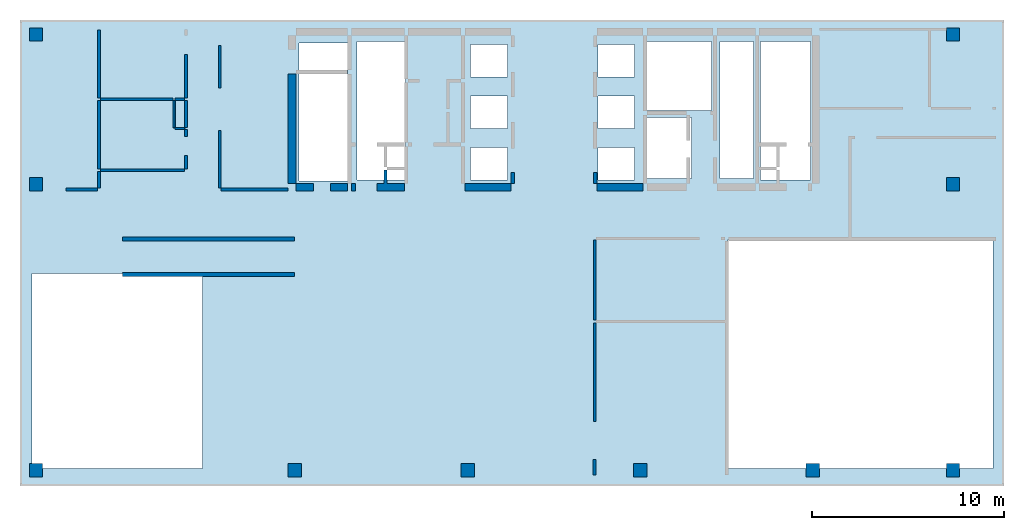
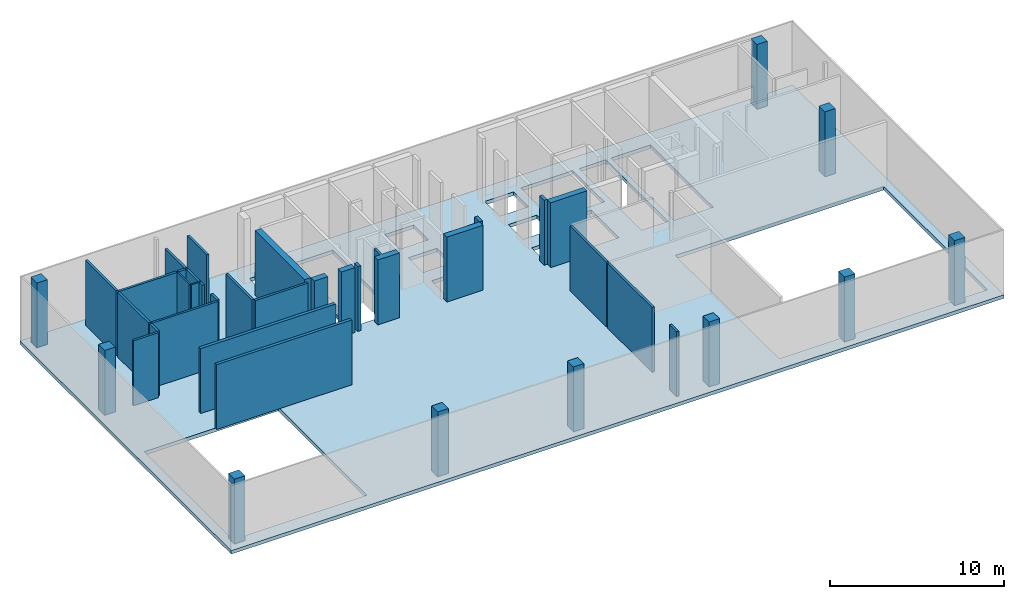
# One storey, part 1 of 4: 30 walls, 11 columns, 1 slab.
"""IFC4 building model written with IfcOpenShell, lengths in millimetres."""

from ifc_helpers import new_model, si_unit, frame, origin, place, context, project, spatial, triangles, element, save


model = new_model("IFC4")

# Units and contexts
model_context = context("Model", 3, precision=0.001, world=origin())
ifc_project = project(units=[si_unit("LENGTHUNIT", "METRE", prefix="MILLI"), si_unit("AREAUNIT", "SQUARE_METRE"), si_unit("VOLUMEUNIT", "CUBIC_METRE")], contexts=[model_context])

# Site, building, storey
site_placement = place(None, origin())
site = spatial("IfcSite", under=ifc_project, at=site_placement, Name="Site", CompositionType="ELEMENT")
building_placement = place(site_placement, origin())
building = spatial("IfcBuilding", under=site, at=building_placement, Name="INNOCEAN", CompositionType="ELEMENT")
storey_placement = place(building_placement, frame((0.0, 0.0, 20600.0)))
storey = spatial("IfcBuildingStorey", under=building, at=storey_placement, Name="F05", CompositionType="ELEMENT", Elevation=20600.0)

# Columns
column_1_placement = place(storey_placement, origin())
element("IfcColumn", 1, at=column_1_placement, inside=storey, Name="F05_Columns_F05_001", context=model_context, shape_type="Tessellation", body=[
    triangles([(40114.8, 2023.7, 0.0), (40114.8, 2722.3, 4550.0), (40114.8, 2722.3, 0.0), (40114.8, 2023.7, 4550.0), (40813.0, 2722.3, 4550.0), (40813.0, 2023.7, 0.0), (40813.0, 2722.3, 0.0), (40813.0, 2023.7, 4550.0)], [[1, 2, 3], [1, 4, 2], [5, 6, 7], [8, 6, 5], [6, 8, 1], [1, 8, 4], [5, 7, 3], [5, 3, 2], [3, 7, 1], [1, 7, 6], [5, 2, 4], [5, 4, 8]], closed=True),
])
column_2_placement = place(storey_placement, origin())
element("IfcColumn", 2, at=column_2_placement, inside=storey, Name="F05_Columns_F05_002", context=model_context, shape_type="Tessellation", body=[
    triangles([(47413.4, 24721.0, 0.0), (47413.4, 24721.0, 4550.0), (47413.4, 25419.5, 0.0), (47413.4, 25419.5, 4550.0), (48111.6, 24721.0, 4550.0), (48111.6, 24721.0, 0.0), (48111.6, 25419.5, 0.0), (48111.6, 25419.5, 4550.0)], [[1, 2, 3], [3, 2, 4], [5, 6, 7], [5, 7, 8], [6, 5, 1], [1, 5, 2], [8, 7, 3], [8, 3, 4], [1, 3, 6], [3, 7, 6], [4, 2, 5], [8, 4, 5]], closed=True),
])
column_3_placement = place(storey_placement, origin())
element("IfcColumn", 3, at=column_3_placement, inside=storey, Name="F05_Columns_F05_003", context=model_context, shape_type="Tessellation", body=[
    triangles([(47413.4, 16922.4, 0.0), (47413.4, 16922.4, 4550.0), (47413.4, 17620.9, 0.0), (47413.4, 17620.9, 4550.0), (48111.6, 16922.4, 4550.0), (48111.6, 16922.4, 0.0), (48111.6, 17620.9, 0.0), (48111.6, 17620.9, 4550.0)], [[1, 2, 3], [3, 2, 4], [5, 6, 7], [5, 7, 8], [6, 5, 1], [1, 5, 2], [8, 7, 3], [8, 3, 4], [1, 3, 6], [3, 7, 6], [4, 2, 5], [8, 4, 5]], closed=True),
])
column_4_placement = place(storey_placement, origin())
element("IfcColumn", 4, at=column_4_placement, inside=storey, Name="F05_Columns_F05_004", context=model_context, shape_type="Tessellation", body=[
    triangles([(13129.0, 2023.7, 0.0), (13129.0, 2722.3, 4550.0), (13129.0, 2722.3, 0.0), (13129.0, 2023.7, 4550.0), (13827.2, 2722.3, 4550.0), (13827.2, 2023.7, 0.0), (13827.2, 2722.3, 0.0), (13827.2, 2023.7, 4550.0)], [[1, 2, 3], [1, 4, 2], [5, 6, 7], [8, 6, 5], [6, 8, 1], [1, 8, 4], [5, 7, 3], [5, 3, 2], [3, 7, 1], [1, 7, 6], [5, 2, 4], [5, 4, 8]], closed=True),
])
column_5_placement = place(storey_placement, origin())
element("IfcColumn", 5, at=column_5_placement, inside=storey, Name="F05_Columns_F05_005", context=model_context, shape_type="Tessellation", body=[
    triangles([(47413.4, 2023.7, 0.0), (47413.4, 2722.3, 4550.0), (47413.4, 2722.3, 0.0), (47413.4, 2023.7, 4550.0), (48111.6, 2722.3, 4550.0), (48111.6, 2023.7, 0.0), (48111.6, 2722.3, 0.0), (48111.6, 2023.7, 4550.0)], [[1, 2, 3], [1, 4, 2], [5, 6, 7], [8, 6, 5], [6, 8, 1], [1, 8, 4], [5, 7, 3], [5, 3, 2], [3, 7, 1], [1, 7, 6], [5, 2, 4], [5, 4, 8]], closed=True),
])
column_6_placement = place(storey_placement, origin())
element("IfcColumn", 6, at=column_6_placement, inside=storey, Name="F05_Columns_F05_006", context=model_context, shape_type="Tessellation", body=[
    triangles([(-363.9, 2023.7, 0.0), (-363.9, 2722.3, 4550.0), (-363.9, 2722.3, 0.0), (-363.9, 2023.7, 4550.0), (334.3, 2722.3, 4550.0), (334.3, 2023.7, 0.0), (334.3, 2722.3, 0.0), (334.3, 2023.7, 4550.0)], [[1, 2, 3], [1, 4, 2], [5, 6, 7], [8, 6, 5], [6, 8, 1], [1, 8, 4], [5, 7, 3], [5, 3, 2], [3, 7, 1], [1, 7, 6], [5, 2, 4], [5, 4, 8]], closed=True),
])
column_7_placement = place(storey_placement, origin())
element("IfcColumn", 7, at=column_7_placement, inside=storey, Name="F05_Columns_F05_007", context=model_context, shape_type="Tessellation", body=[
    triangles([(-363.9, 24721.0, 0.0), (-363.9, 24721.0, 4550.0), (-363.9, 25419.5, 0.0), (-363.9, 25419.5, 4550.0), (334.3, 24721.0, 4550.0), (334.3, 24721.0, 0.0), (334.3, 25419.5, 0.0), (334.3, 25419.5, 4550.0)], [[1, 2, 3], [3, 2, 4], [5, 6, 7], [5, 7, 8], [6, 5, 1], [1, 5, 2], [8, 7, 3], [8, 3, 4], [3, 7, 1], [1, 7, 6], [8, 4, 2], [8, 2, 5]], closed=True),
])
column_8_placement = place(storey_placement, origin())
element("IfcColumn", 8, at=column_8_placement, inside=storey, Name="F05_Columns_F05_008", context=model_context, shape_type="Tessellation", body=[
    triangles([(31128.0, 2023.7, 0.0), (31128.0, 2722.3, 4550.0), (31128.0, 2722.3, 0.0), (31128.0, 2023.7, 4550.0), (31826.2, 2722.3, 4550.0), (31826.2, 2023.7, 0.0), (31826.2, 2722.3, 0.0), (31826.2, 2023.7, 4550.0)], [[1, 2, 3], [1, 4, 2], [5, 6, 7], [8, 6, 5], [6, 8, 1], [1, 8, 4], [5, 7, 3], [5, 3, 2], [3, 7, 1], [1, 7, 6], [5, 2, 4], [5, 4, 8]], closed=True),
])
column_9_placement = place(storey_placement, origin())
element("IfcColumn", 9, at=column_9_placement, inside=storey, Name="F05_Columns_F05_009", context=model_context, shape_type="Tessellation", body=[
    triangles([(22128.5, 2023.7, 0.0), (22128.5, 2722.3, 4550.0), (22128.5, 2722.3, 0.0), (22128.5, 2023.7, 4550.0), (22826.7, 2722.3, 4550.0), (22826.7, 2023.7, 0.0), (22826.7, 2722.3, 0.0), (22826.7, 2023.7, 4550.0)], [[1, 2, 3], [1, 4, 2], [5, 6, 7], [8, 6, 5], [6, 8, 1], [1, 8, 4], [5, 7, 3], [5, 3, 2], [3, 7, 1], [1, 7, 6], [5, 2, 4], [5, 4, 8]], closed=True),
])
column_10_placement = place(storey_placement, origin())
element("IfcColumn", 10, at=column_10_placement, inside=storey, Name="F05_Columns_F05_010", context=model_context, shape_type="Tessellation", body=[
    triangles([(-363.9, 16922.4, 0.0), (-363.9, 16922.4, 4550.0), (-363.9, 17620.9, 0.0), (-363.9, 17620.9, 4550.0), (334.3, 16922.4, 4550.0), (334.3, 16922.4, 0.0), (334.3, 17620.9, 0.0), (334.3, 17620.9, 4550.0)], [[1, 2, 3], [3, 2, 4], [5, 6, 7], [5, 7, 8], [6, 5, 1], [1, 5, 2], [8, 7, 3], [8, 3, 4], [3, 7, 1], [1, 7, 6], [8, 4, 2], [8, 2, 5]], closed=True),
])
column_11_placement = place(storey_placement, origin())
element("IfcColumn", 11, at=column_11_placement, inside=storey, Name="F05_Columns_F05_011", context=model_context, shape_type="Tessellation", body=[
    triangles([(-363.9, 24721.0, 0.0), (-363.9, 24721.0, 4550.0), (-363.9, 25419.5, 0.0), (-363.9, 25419.5, 4550.0), (334.3, 24721.0, 4550.0), (334.3, 24721.0, 0.0), (334.3, 25419.5, 0.0), (334.3, 25419.5, 4550.0)], [[1, 2, 3], [3, 2, 4], [5, 6, 7], [5, 7, 8], [6, 5, 1], [1, 5, 2], [8, 7, 3], [8, 3, 4], [3, 7, 1], [1, 7, 6], [8, 4, 2], [8, 2, 5]], closed=True),
])

# Slab
slab_placement = place(storey_placement, origin())
element("IfcSlab", 12, at=slab_placement, inside=storey, Name="F05_Slab_F05_001", context=model_context, shape_type="Tessellation", body=[
    triangles([(-846.215139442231, 25825.974025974, 0.0), (50420.3187250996, 25825.974025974, -250.0), (-846.215139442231, 25825.974025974, -250.0), (50420.3187250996, 25825.974025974, 0.0), (-846.215139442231, 1552.38095238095, 0.0), (-846.215139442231, 1552.38095238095, -250.0), (50420.3187250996, 1552.38095238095, 0.0), (50420.3187250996, 1552.38095238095, -250.0), (49856.1752988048, 14394.8051948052, 0.0), (36034.6613545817, 14394.8051948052, 0.0), (36034.6613545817, 14394.8051948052, -250.0), (49856.1752988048, 14394.8051948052, -250.0), (49856.1752988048, 2469.69696969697, 0.0), (49856.1752988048, 2469.69696969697, -250.0), (36034.6613545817, 2469.69696969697, 0.0), (36034.6613545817, 2469.69696969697, -250.0), (8673.70517928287, 12630.7359307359, 0.0), (-211.553784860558, 12630.7359307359, 0.0), (-211.553784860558, 12630.7359307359, -250.0), (8673.70517928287, 12630.7359307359, -250.0), (-211.553784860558, 2469.69696969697, 0.0), (-211.553784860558, 2469.69696969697, -250.0), (8673.70517928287, 2469.69696969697, 0.0), (8673.70517928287, 2469.69696969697, -250.0), (31168.9243027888, 19193.0735930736, 0.0), (29264.9402390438, 19193.0735930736, 0.0), (29264.9402390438, 19193.0735930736, -250.0), (31168.9243027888, 19193.0735930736, -250.0), (29264.9402390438, 17499.5670995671, 0.0), (29264.9402390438, 17499.5670995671, -250.0), (31168.9243027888, 17499.5670995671, 0.0), (31168.9243027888, 17499.5670995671, -250.0), (40336.2549800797, 24696.9696969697, -250.0), (37727.0916334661, 24696.9696969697, 0.0), (37727.0916334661, 24696.9696969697, -250.0), (40336.2549800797, 24696.9696969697, 0.0), (37727.0916334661, 17499.5670995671, 0.0), (37727.0916334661, 17499.5670995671, -250.0), (40336.2549800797, 17499.5670995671, 0.0), (40336.2549800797, 17499.5670995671, -250.0), (34130.6772908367, 20745.4545454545, -250.0), (31733.0677290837, 20745.4545454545, 0.0), (31733.0677290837, 20745.4545454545, -250.0), (34130.6772908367, 20745.4545454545, 0.0), (31733.0677290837, 17570.1298701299, 0.0), (31733.0677290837, 17570.1298701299, -250.0), (34130.6772908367, 17570.1298701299, 0.0), (34130.6772908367, 17570.1298701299, -250.0), (37374.5019920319, 24696.9696969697, 0.0), (35611.5537848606, 24696.9696969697, 0.0), (35611.5537848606, 24696.9696969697, -250.0), (37374.5019920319, 24696.9696969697, -250.0), (35611.5537848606, 17570.1298701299, 0.0), (35611.5537848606, 17570.1298701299, -250.0), (37374.5019920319, 17570.1298701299, 0.0), (37374.5019920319, 17570.1298701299, -250.0), (31168.9243027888, 21874.4588744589, 0.0), (29264.9402390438, 21874.4588744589, 0.0), (29264.9402390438, 21874.4588744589, -250.0), (31168.9243027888, 21874.4588744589, -250.0), (29264.9402390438, 20180.9523809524, 0.0), (29264.9402390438, 20180.9523809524, -250.0), (31168.9243027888, 20180.9523809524, 0.0), (31168.9243027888, 20180.9523809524, -250.0), (35188.4462151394, 24696.9696969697, 0.0), (31733.0677290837, 24696.9696969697, 0.0), (31733.0677290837, 24696.9696969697, -250.0), (35188.4462151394, 24696.9696969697, -250.0), (31733.0677290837, 21098.2683982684, 0.0), (31733.0677290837, 21098.2683982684, -250.0), (35188.4462151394, 21098.2683982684, 0.0), (35188.4462151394, 21098.2683982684, -250.0), (31168.9243027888, 24555.8441558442, 0.0), (29264.9402390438, 24555.8441558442, 0.0), (29264.9402390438, 24555.8441558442, -250.0), (31168.9243027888, 24555.8441558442, -250.0), (29264.9402390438, 22862.3376623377, 0.0), (29264.9402390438, 22862.3376623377, -250.0), (31168.9243027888, 22862.3376623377, 0.0), (31168.9243027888, 22862.3376623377, -250.0), (24540.2390438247, 19193.0735930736, -250.0), (22636.2549800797, 19193.0735930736, 0.0), (22636.2549800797, 19193.0735930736, -250.0), (24540.2390438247, 19193.0735930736, 0.0), (22636.2549800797, 17499.5670995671, 0.0), (22636.2549800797, 17499.5670995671, -250.0), (24540.2390438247, 17499.5670995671, 0.0), (24540.2390438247, 17499.5670995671, -250.0), (24540.2390438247, 21874.4588744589, -250.0), (22636.2549800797, 21874.4588744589, 0.0), (22636.2549800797, 21874.4588744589, -250.0), (24540.2390438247, 21874.4588744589, 0.0), (22636.2549800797, 20180.9523809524, 0.0), (22636.2549800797, 20180.9523809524, -250.0), (24540.2390438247, 20180.9523809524, 0.0), (24540.2390438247, 20180.9523809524, -250.0), (19251.3944223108, 24696.9696969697, 0.0), (16712.7490039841, 24696.9696969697, 0.0), (16712.7490039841, 24696.9696969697, -250.0), (19251.3944223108, 24696.9696969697, -250.0), (16712.7490039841, 17499.5670995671, 0.0), (16712.7490039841, 17499.5670995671, -250.0), (19251.3944223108, 17499.5670995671, 0.0), (19251.3944223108, 17499.5670995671, -250.0), (16219.1235059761, 24626.4069264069, 0.0), (13680.4780876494, 24626.4069264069, 0.0), (13680.4780876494, 24626.4069264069, -250.0), (16219.1235059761, 24626.4069264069, -250.0), (13680.4780876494, 17429.0043290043, 0.0), (13680.4780876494, 17429.0043290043, -250.0), (16219.1235059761, 17429.0043290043, 0.0), (16219.1235059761, 17429.0043290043, -250.0), (24540.2390438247, 24555.8441558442, -250.0), (22636.2549800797, 24555.8441558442, 0.0), (22636.2549800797, 24555.8441558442, -250.0), (24540.2390438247, 24555.8441558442, 0.0), (22636.2549800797, 22862.3376623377, 0.0), (22636.2549800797, 22862.3376623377, -250.0), (24540.2390438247, 22862.3376623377, 0.0), (24540.2390438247, 22862.3376623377, -250.0)], [[1, 2, 3], [1, 4, 2], [5, 1, 6], [6, 1, 3], [4, 7, 2], [2, 7, 8], [7, 6, 8], [7, 5, 6], [9, 10, 11], [9, 11, 12], [13, 9, 12], [13, 12, 14], [15, 13, 14], [15, 14, 16], [10, 15, 16], [10, 16, 11], [17, 18, 19], [17, 19, 20], [18, 21, 22], [18, 22, 19], [23, 17, 20], [23, 20, 24], [21, 23, 24], [21, 24, 22], [25, 26, 27], [25, 27, 28], [26, 29, 30], [26, 30, 27], [31, 25, 28], [31, 28, 32], [29, 31, 32], [29, 32, 30], [33, 34, 35], [36, 34, 33], [34, 37, 38], [34, 38, 35], [39, 36, 33], [39, 33, 40], [38, 39, 40], [37, 39, 38], [41, 42, 43], [44, 42, 41], [42, 45, 46], [42, 46, 43], [47, 44, 41], [47, 41, 48], [46, 47, 48], [45, 47, 46], [49, 50, 51], [49, 51, 52], [50, 53, 54], [50, 54, 51], [55, 49, 52], [55, 52, 56], [53, 55, 56], [53, 56, 54], [57, 58, 59], [57, 59, 60], [58, 61, 62], [58, 62, 59], [63, 57, 60], [63, 60, 64], [61, 63, 64], [61, 64, 62], [65, 66, 67], [65, 67, 68], [66, 69, 70], [66, 70, 67], [71, 65, 68], [71, 68, 72], [69, 71, 72], [69, 72, 70], [73, 74, 75], [73, 75, 76], [74, 77, 78], [74, 78, 75], [79, 73, 76], [79, 76, 80], [77, 79, 80], [77, 80, 78], [81, 82, 83], [84, 82, 81], [82, 85, 86], [82, 86, 83], [87, 84, 81], [87, 81, 88], [86, 87, 88], [85, 87, 86], [89, 90, 91], [92, 90, 89], [90, 93, 94], [90, 94, 91], [95, 92, 89], [95, 89, 96], [94, 95, 96], [93, 95, 94], [97, 98, 99], [97, 99, 100], [98, 101, 102], [98, 102, 99], [103, 97, 100], [103, 100, 104], [101, 103, 104], [101, 104, 102], [105, 106, 107], [105, 107, 108], [106, 109, 110], [106, 110, 107], [111, 105, 108], [111, 108, 112], [109, 111, 112], [109, 112, 110], [113, 114, 115], [116, 114, 113], [114, 117, 118], [114, 118, 115], [119, 116, 113], [119, 113, 120], [118, 119, 120], [117, 119, 118], [7, 9, 13], [13, 15, 7], [4, 39, 9], [39, 10, 9], [39, 37, 10], [37, 55, 10], [55, 53, 10], [53, 47, 10], [4, 36, 39], [47, 45, 10], [45, 31, 10], [71, 44, 53], [53, 44, 47], [45, 25, 31], [10, 29, 15], [31, 29, 10], [25, 42, 63], [42, 69, 63], [44, 69, 42], [50, 65, 71], [63, 26, 25], [69, 57, 63], [63, 61, 26], [69, 79, 57], [29, 87, 15], [66, 73, 79], [79, 77, 57], [57, 77, 58], [61, 84, 26], [26, 84, 29], [29, 84, 87], [87, 85, 15], [15, 85, 23], [66, 74, 73], [61, 95, 84], [58, 95, 61], [58, 92, 95], [84, 93, 82], [95, 93, 84], [85, 103, 23], [82, 103, 85], [93, 103, 82], [77, 119, 58], [58, 119, 92], [93, 90, 103], [119, 90, 92], [74, 116, 77], [77, 116, 119], [119, 117, 90], [103, 101, 23], [101, 111, 23], [23, 5, 15], [23, 21, 5], [111, 17, 23], [109, 17, 111], [114, 97, 117], [90, 97, 103], [117, 97, 90], [98, 105, 101], [101, 105, 111], [98, 106, 105], [21, 18, 5], [17, 1, 18], [106, 1, 109], [109, 1, 17], [4, 1, 36], [36, 1, 34], [34, 1, 49], [49, 1, 50], [50, 1, 65], [65, 1, 66], [66, 1, 74], [74, 1, 116], [116, 1, 114], [114, 1, 97], [97, 1, 98], [98, 1, 106], [7, 4, 9], [5, 7, 15], [1, 5, 18], [45, 42, 25], [53, 50, 71], [49, 55, 34], [34, 55, 37], [69, 66, 79], [71, 69, 44], [12, 8, 14], [16, 14, 8], [40, 2, 12], [11, 40, 12], [38, 40, 11], [56, 38, 11], [54, 56, 11], [48, 54, 11], [33, 2, 40], [46, 48, 11], [32, 46, 11], [41, 72, 54], [41, 54, 48], [28, 46, 32], [30, 11, 16], [30, 32, 11], [43, 28, 64], [70, 43, 64], [70, 41, 43], [68, 51, 72], [27, 64, 28], [60, 70, 64], [62, 64, 27], [80, 70, 60], [88, 30, 16], [76, 67, 80], [78, 80, 60], [78, 60, 59], [81, 62, 27], [81, 27, 30], [81, 30, 88], [86, 88, 16], [86, 16, 24], [75, 67, 76], [96, 62, 81], [96, 59, 62], [89, 59, 96], [94, 81, 83], [94, 96, 81], [104, 86, 24], [104, 83, 86], [104, 94, 83], [120, 78, 59], [120, 59, 89], [91, 94, 104], [91, 120, 89], [113, 75, 78], [113, 78, 120], [118, 120, 91], [102, 104, 24], [112, 102, 24], [6, 24, 16], [22, 24, 6], [20, 112, 24], [20, 110, 112], [100, 115, 118], [100, 91, 104], [100, 118, 91], [108, 99, 102], [108, 102, 112], [107, 99, 108], [19, 22, 6], [3, 20, 19], [3, 107, 110], [3, 110, 20], [3, 2, 33], [3, 33, 35], [3, 35, 52], [3, 52, 51], [3, 51, 68], [3, 68, 67], [3, 67, 75], [3, 75, 113], [3, 113, 115], [3, 115, 100], [3, 100, 99], [3, 99, 107], [2, 8, 12], [8, 6, 16], [6, 3, 19], [43, 46, 28], [51, 54, 72], [56, 52, 35], [56, 35, 38], [67, 70, 80], [70, 72, 41]], closed=True),
])

# Walls
wall_1_placement = place(storey_placement, origin())
element("IfcWall", 13, at=wall_1_placement, inside=storey, Name="F05_Walls_F05_001", context=model_context, shape_type="Tessellation", body=[
    triangles([(4500.0, 12475.0, 0.0), (13460.0, 12475.0, 0.0), (13460.0, 12475.0, 4550.0), (4500.0, 12475.0, 4550.0), (4500.0, 12476.9, 4550.0), (4500.0, 12476.9, 0.0), (4497.6, 12476.9, 0.0), (4497.6, 12476.9, 4550.0), (4497.6, 12667.4, 0.0), (4497.6, 12667.4, 4550.0), (13459.1, 12667.4, 0.0), (13459.1, 12667.4, 4550.0), (13459.1, 12665.0, 0.0), (13459.1, 12665.0, 4550.0), (13460.0, 12665.0, 4550.0), (13460.0, 12665.0, 0.0)], [[1, 2, 3], [1, 3, 4], [1, 4, 5], [6, 1, 5], [7, 6, 5], [7, 5, 8], [9, 7, 8], [9, 8, 10], [11, 9, 10], [11, 10, 12], [13, 11, 12], [13, 12, 14], [13, 14, 15], [16, 13, 15], [2, 16, 15], [2, 15, 3], [13, 16, 2], [6, 2, 1], [6, 13, 2], [9, 6, 7], [9, 11, 13], [9, 13, 6], [15, 14, 3], [3, 5, 4], [14, 5, 3], [5, 10, 8], [12, 10, 14], [14, 10, 5]], closed=True),
])
wall_2_placement = place(storey_placement, origin())
element("IfcWall", 14, at=wall_2_placement, inside=storey, Name="F05_Walls_F05_002", context=model_context, shape_type="Tessellation", body=[
    triangles([(13459.1, 14520.0, 0.0), (13459.1, 14521.8, 0.0), (13459.1, 14521.8, 4550.0), (13459.1, 14520.0, 4550.0), (13460.0, 14520.0, 4550.0), (13460.0, 14520.0, 0.0), (13460.0, 14320.0, 4550.0), (13460.0, 14320.0, 0.0), (13459.1, 14320.0, 4550.0), (13459.1, 14320.0, 0.0), (13459.1, 14318.6, 0.0), (13459.1, 14318.6, 4550.0), (4497.6, 14318.6, 0.0), (4497.6, 14318.6, 4550.0), (4497.6, 14521.8, 0.0), (4497.6, 14521.8, 4550.0)], [[1, 2, 3], [1, 3, 4], [1, 4, 5], [6, 1, 5], [6, 5, 7], [8, 6, 7], [8, 7, 9], [10, 8, 9], [11, 10, 9], [11, 9, 12], [13, 11, 12], [13, 12, 14], [15, 13, 14], [15, 14, 16], [2, 15, 16], [2, 16, 3], [1, 6, 8], [1, 8, 10], [13, 10, 11], [13, 1, 10], [15, 2, 1], [15, 1, 13], [5, 4, 7], [7, 4, 9], [9, 14, 12], [4, 14, 9], [3, 16, 4], [4, 16, 14]], closed=True),
])
wall_3_placement = place(storey_placement, origin())
element("IfcWall", 15, at=wall_3_placement, inside=storey, Name="F05_Walls_F05_003", context=model_context, shape_type="Tessellation", body=[
    triangles([(3190.2, 16922.4, 0.0), (3190.2, 17074.8, 0.0), (3190.2, 17074.8, 4550.0), (3190.2, 16922.4, 4550.0), (1552.8, 16922.4, 0.0), (1552.8, 16922.4, 4550.0), (1552.8, 17074.8, 0.0), (1552.8, 17074.8, 4550.0)], [[1, 2, 3], [1, 3, 4], [5, 1, 4], [5, 4, 6], [7, 5, 6], [7, 6, 8], [2, 7, 8], [2, 8, 3], [5, 2, 1], [7, 2, 5], [3, 6, 4], [3, 8, 6]], closed=True),
])
wall_4_placement = place(storey_placement, origin())
element("IfcWall", 16, at=wall_4_placement, inside=storey, Name="F05_Walls_F05_004", context=model_context, shape_type="Tessellation", body=[
    triangles([(13129.0, 16922.4, 0.0), (13129.0, 17074.8, 0.0), (13129.0, 17074.8, 4550.0), (13129.0, 16922.4, 4550.0), (9638.4, 16922.4, 0.0), (9638.4, 16922.4, 4550.0), (9638.4, 17074.8, 0.0), (9638.4, 17074.8, 4550.0)], [[1, 2, 3], [1, 3, 4], [5, 1, 4], [5, 4, 6], [7, 5, 6], [7, 6, 8], [2, 7, 8], [2, 8, 3], [7, 2, 1], [7, 1, 5], [3, 8, 4], [4, 8, 6]], closed=True),
])
wall_5_placement = place(storey_placement, origin())
element("IfcWall", 17, at=wall_5_placement, inside=storey, Name="F05_Walls_F05_005", context=model_context, shape_type="Tessellation", body=[
    triangles([(14436.4, 16922.4, 0.0), (14436.4, 17316.1, 0.0), (14436.4, 17316.1, 4550.0), (14436.4, 16922.4, 4550.0), (13535.2, 16922.4, 4550.0), (13535.2, 16922.4, 0.0), (13535.2, 17316.1, 0.0), (13535.2, 17316.1, 4550.0)], [[1, 2, 3], [1, 3, 4], [1, 4, 5], [6, 1, 5], [7, 6, 5], [7, 5, 8], [7, 8, 3], [2, 7, 3], [7, 2, 1], [7, 1, 6], [3, 8, 4], [4, 8, 5]], closed=True),
])
wall_6_placement = place(storey_placement, origin())
element("IfcWall", 18, at=wall_6_placement, inside=storey, Name="F05_Walls_F05_006", context=model_context, shape_type="Tessellation", body=[
    triangles([(16226.2, 16922.4, 0.0), (16226.2, 17316.1, 0.0), (16226.2, 17316.1, 4550.0), (16226.2, 16922.4, 4550.0), (15337.6, 16922.4, 0.0), (15337.6, 16922.4, 4550.0), (15337.6, 17316.1, 0.0), (15337.6, 17316.1, 4550.0)], [[1, 2, 3], [1, 3, 4], [5, 1, 4], [5, 4, 6], [7, 5, 6], [7, 6, 8], [2, 7, 8], [2, 8, 3], [7, 2, 1], [7, 1, 5], [3, 8, 4], [4, 8, 6]], closed=True),
])
wall_7_placement = place(storey_placement, origin())
element("IfcWall", 19, at=wall_7_placement, inside=storey, Name="F05_Walls_F05_007", context=model_context, shape_type="Tessellation", body=[
    triangles([(16632.4, 16922.4, 0.0), (16632.4, 17316.1, 0.0), (16632.4, 17316.1, 4550.0), (16632.4, 16922.4, 4550.0), (16429.3, 16922.4, 0.0), (16429.3, 16922.4, 4550.0), (16429.3, 17316.1, 0.0), (16429.3, 17316.1, 4550.0)], [[1, 2, 3], [1, 3, 4], [5, 1, 4], [5, 4, 6], [7, 5, 6], [7, 6, 8], [2, 7, 8], [2, 8, 3], [7, 2, 1], [7, 1, 5], [3, 8, 4], [4, 8, 6]], closed=True),
])
wall_8_placement = place(storey_placement, origin())
element("IfcWall", 20, at=wall_8_placement, inside=storey, Name="F05_Walls_F05_008", context=model_context, shape_type="Tessellation", body=[
    triangles([(3342.5, 17074.8, 0.0), (3342.5, 17925.8, 0.0), (3342.5, 17925.8, 4550.0), (3342.5, 17074.8, 4550.0), (3190.2, 17074.8, 0.0), (3190.2, 17074.8, 4550.0), (3190.2, 17925.8, 0.0), (3190.2, 17925.8, 4550.0)], [[1, 2, 3], [1, 3, 4], [5, 1, 4], [5, 4, 6], [7, 5, 6], [7, 6, 8], [2, 7, 8], [2, 8, 3], [7, 2, 1], [7, 1, 5], [3, 8, 4], [4, 8, 6]], closed=True),
])
wall_9_placement = place(storey_placement, origin())
element("IfcWall", 21, at=wall_9_placement, inside=storey, Name="F05_Walls_F05_009", context=model_context, shape_type="Tessellation", body=[
    triangles([(7734.4, 17925.8, 0.0), (7734.4, 18065.5, 0.0), (7734.4, 18065.5, 4550.0), (7734.4, 17925.8, 4550.0), (3342.5, 17925.8, 4550.0), (3342.5, 17925.8, 0.0), (3342.5, 18065.5, 0.0), (3342.5, 18065.5, 4550.0)], [[1, 2, 3], [1, 3, 4], [1, 4, 5], [6, 1, 5], [7, 6, 5], [7, 5, 8], [7, 8, 3], [2, 7, 3], [6, 2, 1], [7, 2, 6], [3, 5, 4], [3, 8, 5]], closed=True),
])
wall_10_placement = place(storey_placement, origin())
element("IfcWall", 22, at=wall_10_placement, inside=storey, Name="F05_Walls_F05_011", context=model_context, shape_type="Tessellation", body=[
    triangles([(7886.7, 18065.5, 0.0), (7886.7, 18776.8, 0.0), (7886.7, 18776.8, 4550.0), (7886.7, 18065.5, 4550.0), (7734.4, 18065.5, 0.0), (7734.4, 18065.5, 4550.0), (7734.4, 18776.8, 0.0), (7734.4, 18776.8, 4550.0)], [[1, 2, 3], [1, 3, 4], [5, 1, 4], [5, 4, 6], [7, 5, 6], [7, 6, 8], [2, 7, 8], [2, 8, 3], [2, 1, 5], [7, 2, 5], [4, 3, 6], [3, 8, 6]], closed=True),
])
wall_11_placement = place(storey_placement, origin())
element("IfcWall", 23, at=wall_11_placement, inside=storey, Name="F05_Walls_F05_012", context=model_context, shape_type="Tessellation", body=[
    triangles([(9638.4, 17074.8, 0.0), (9638.4, 20059.6, 0.0), (9638.4, 20059.6, 4550.0), (9638.4, 17074.8, 4550.0), (9486.1, 17074.8, 0.0), (9486.1, 17074.8, 4550.0), (9486.1, 20059.6, 0.0), (9486.1, 20059.6, 4550.0)], [[1, 2, 3], [1, 3, 4], [5, 1, 4], [5, 4, 6], [7, 5, 6], [7, 6, 8], [2, 7, 8], [2, 8, 3], [7, 2, 1], [7, 1, 5], [3, 8, 4], [4, 8, 6]], closed=True),
])
wall_12_placement = place(storey_placement, origin())
element("IfcWall", 24, at=wall_12_placement, inside=storey, Name="F05_Walls_F05_013", context=model_context, shape_type="Tessellation", body=[
    triangles([(3342.5, 18065.5, 0.0), (3342.5, 21621.8, 0.0), (3342.5, 21621.8, 4550.0), (3342.5, 18065.5, 4550.0), (3190.2, 18065.5, 0.0), (3190.2, 18065.5, 4550.0), (3190.2, 21621.8, 0.0), (3190.2, 21621.8, 4550.0)], [[1, 2, 3], [1, 3, 4], [5, 1, 4], [5, 4, 6], [7, 5, 6], [7, 6, 8], [2, 7, 8], [2, 8, 3], [7, 2, 1], [7, 1, 5], [3, 8, 4], [4, 8, 6]], closed=True),
])
wall_13_placement = place(storey_placement, origin())
element("IfcWall", 25, at=wall_13_placement, inside=storey, Name="F05_Walls_F05_014", context=model_context, shape_type="Tessellation", body=[
    triangles([(7886.7, 20123.1, 0.0), (7886.7, 20123.1, 4550.0), (7886.7, 19767.5, 4550.0), (7886.7, 19767.5, 0.0), (7734.4, 19767.5, 0.0), (7734.4, 19767.5, 4550.0), (7734.4, 20123.1, 4550.0), (7734.4, 20123.1, 0.0)], [[1, 2, 3], [4, 1, 3], [5, 4, 3], [5, 3, 6], [5, 6, 7], [8, 5, 7], [1, 8, 7], [1, 7, 2], [1, 4, 5], [8, 1, 5], [3, 2, 6], [2, 7, 6]], closed=True),
])
wall_14_placement = place(storey_placement, origin())
element("IfcWall", 26, at=wall_14_placement, inside=storey, Name="F05_Walls_F05_015", context=model_context, shape_type="Tessellation", body=[
    triangles([(13535.2, 17316.1, 0.0), (13535.2, 23019.0, 0.0), (13535.2, 23019.0, 4550.0), (13535.2, 17316.1, 4550.0), (13129.0, 17316.1, 0.0), (13129.0, 17316.1, 4550.0), (13129.0, 23019.0, 0.0), (13129.0, 23019.0, 4550.0)], [[1, 2, 3], [1, 3, 4], [5, 1, 4], [5, 4, 6], [7, 5, 6], [7, 6, 8], [2, 7, 8], [2, 8, 3], [7, 2, 1], [7, 1, 5], [3, 8, 4], [4, 8, 6]], closed=True),
])
wall_15_placement = place(storey_placement, origin())
element("IfcWall", 27, at=wall_15_placement, inside=storey, Name="F05_Walls_F05_016", context=model_context, shape_type="Tessellation", body=[
    triangles([(7239.4, 20123.1, 0.0), (7239.4, 20123.1, 4550.0), (7239.4, 20224.7, 4550.0), (7239.4, 20224.7, 0.0), (7734.4, 20224.7, 4550.0), (7734.4, 20224.7, 0.0), (7734.4, 20123.1, 4550.0), (7734.4, 20123.1, 0.0)], [[1, 2, 3], [4, 1, 3], [4, 3, 5], [6, 4, 5], [6, 5, 7], [8, 6, 7], [8, 7, 2], [1, 8, 2], [4, 6, 8], [4, 8, 1], [5, 3, 7], [7, 3, 2]], closed=True),
])
wall_16_placement = place(storey_placement, origin())
element("IfcWall", 28, at=wall_16_placement, inside=storey, Name="F05_Walls_F05_017", context=model_context, shape_type="Tessellation", body=[
    triangles([(7239.4, 20224.7, 0.0), (7239.4, 21621.8, 0.0), (7239.4, 21621.8, 4550.0), (7239.4, 20224.7, 4550.0), (7137.8, 20224.7, 0.0), (7137.8, 20224.7, 4550.0), (7137.8, 21621.8, 0.0), (7137.8, 21621.8, 4550.0)], [[1, 2, 3], [1, 3, 4], [5, 1, 4], [5, 4, 6], [7, 5, 6], [7, 6, 8], [2, 7, 8], [2, 8, 3], [7, 2, 1], [7, 1, 5], [3, 8, 4], [4, 8, 6]], closed=True),
])
wall_17_placement = place(storey_placement, origin())
element("IfcWall", 29, at=wall_17_placement, inside=storey, Name="F05_Walls_F05_018", context=model_context, shape_type="Tessellation", body=[
    triangles([(7886.7, 20224.7, 0.0), (7886.7, 21621.8, 0.0), (7886.7, 21621.8, 4550.0), (7886.7, 20224.7, 4550.0), (7734.4, 20224.7, 0.0), (7734.4, 20224.7, 4550.0), (7734.4, 21621.8, 0.0), (7734.4, 21621.8, 4550.0)], [[1, 2, 3], [1, 3, 4], [5, 1, 4], [5, 4, 6], [7, 5, 6], [7, 6, 8], [2, 7, 8], [2, 8, 3], [7, 2, 1], [7, 1, 5], [3, 8, 4], [4, 8, 6]], closed=True),
])
wall_18_placement = place(storey_placement, origin())
element("IfcWall", 30, at=wall_18_placement, inside=storey, Name="F05_Walls_F05_019", context=model_context, shape_type="Tessellation", body=[
    triangles([(7137.8, 21621.8, 0.0), (7137.8, 21774.3, 0.0), (7137.8, 21774.3, 4550.0), (7137.8, 21621.8, 4550.0), (3342.5, 21621.8, 0.0), (3342.5, 21621.8, 4550.0), (3342.5, 21774.3, 0.0), (3342.5, 21774.3, 4550.0)], [[1, 2, 3], [1, 3, 4], [5, 1, 4], [5, 4, 6], [7, 5, 6], [7, 6, 8], [2, 7, 8], [2, 8, 3], [7, 2, 1], [7, 1, 5], [3, 8, 4], [4, 8, 6]], closed=True),
])
wall_19_placement = place(storey_placement, origin())
element("IfcWall", 31, at=wall_19_placement, inside=storey, Name="F05_Walls_F05_020", context=model_context, shape_type="Tessellation", body=[
    triangles([(7734.4, 21621.8, 0.0), (7734.4, 21774.3, 0.0), (7734.4, 21774.3, 4550.0), (7734.4, 21621.8, 4550.0), (7239.4, 21621.8, 4550.0), (7239.4, 21621.8, 0.0), (7239.4, 21774.3, 0.0), (7239.4, 21774.3, 4550.0)], [[1, 2, 3], [1, 3, 4], [1, 4, 5], [6, 1, 5], [7, 6, 5], [7, 5, 8], [7, 8, 3], [2, 7, 3], [7, 2, 1], [7, 1, 6], [3, 8, 4], [4, 8, 5]], closed=True),
])
wall_20_placement = place(storey_placement, origin())
element("IfcWall", 32, at=wall_20_placement, inside=storey, Name="F05_Walls_F05_021", context=model_context, shape_type="Tessellation", body=[
    triangles([(7886.7, 21774.3, 0.0), (7886.7, 24022.4, 0.0), (7886.7, 24022.4, 4550.0), (7886.7, 21774.3, 4550.0), (7734.4, 21774.3, 0.0), (7734.4, 21774.3, 4550.0), (7734.4, 24022.4, 0.0), (7734.4, 24022.4, 4550.0)], [[1, 2, 3], [1, 3, 4], [5, 1, 4], [5, 4, 6], [7, 5, 6], [7, 6, 8], [2, 7, 8], [2, 8, 3], [2, 1, 5], [7, 2, 5], [4, 3, 6], [3, 8, 6]], closed=True),
])
wall_21_placement = place(storey_placement, origin())
element("IfcWall", 33, at=wall_21_placement, inside=storey, Name="F05_Walls_F05_023", context=model_context, shape_type="Tessellation", body=[
    triangles([(9638.4, 22282.3, 0.0), (9638.4, 24505.0, 0.0), (9638.4, 24505.0, 4550.0), (9638.4, 22282.3, 4550.0), (9486.1, 22282.3, 0.0), (9486.1, 22282.3, 4550.0), (9486.1, 24505.0, 0.0), (9486.1, 24505.0, 4550.0)], [[1, 2, 3], [1, 3, 4], [5, 1, 4], [5, 4, 6], [7, 5, 6], [7, 6, 8], [2, 7, 8], [2, 8, 3], [7, 2, 1], [7, 1, 5], [3, 8, 4], [4, 8, 6]], closed=True),
])
wall_22_placement = place(storey_placement, origin())
element("IfcWall", 34, at=wall_22_placement, inside=storey, Name="F05_Walls_F05_024", context=model_context, shape_type="Tessellation", body=[
    triangles([(3342.5, 21774.3, 0.0), (3342.5, 25317.9, 0.0), (3342.5, 25317.9, 4550.0), (3342.5, 21774.3, 4550.0), (3190.2, 21774.3, 0.0), (3190.2, 21774.3, 4550.0), (3190.2, 25317.9, 0.0), (3190.2, 25317.9, 4550.0)], [[1, 2, 3], [1, 3, 4], [5, 1, 4], [5, 4, 6], [7, 5, 6], [7, 6, 8], [2, 7, 8], [2, 8, 3], [7, 2, 1], [7, 1, 5], [3, 8, 4], [4, 8, 6]], closed=True),
])
wall_23_placement = place(storey_placement, origin())
element("IfcWall", 35, at=wall_23_placement, inside=storey, Name="F05_Walls_F05_029", context=model_context, shape_type="Tessellation", body=[
    triangles([(29173.3, 4919.6, 0.0), (29173.3, 10051.0, 0.0), (29173.3, 10051.0, 4550.0), (29173.3, 4919.6, 4550.0), (29020.9, 4919.6, 0.0), (29020.9, 4919.6, 4550.0), (29020.9, 10051.0, 0.0), (29020.9, 10051.0, 4550.0)], [[1, 2, 3], [1, 3, 4], [5, 1, 4], [5, 4, 6], [7, 5, 6], [7, 6, 8], [2, 7, 8], [2, 8, 3], [7, 2, 1], [7, 1, 5], [3, 8, 4], [4, 8, 6]], closed=True),
])
wall_24_placement = place(storey_placement, origin())
element("IfcWall", 36, at=wall_24_placement, inside=storey, Name="F05_Walls_F05_030", context=model_context, shape_type="Tessellation", body=[
    triangles([(29173.3, 10190.7, 0.0), (29173.3, 14369.4, 0.0), (29173.3, 14369.4, 4550.0), (29173.3, 10190.7, 4550.0), (29020.9, 10190.7, 0.0), (29020.9, 10190.7, 4550.0), (29020.9, 14369.4, 0.0), (29020.9, 14369.4, 4550.0)], [[1, 2, 3], [1, 3, 4], [5, 1, 4], [5, 4, 6], [7, 5, 6], [7, 6, 8], [2, 7, 8], [2, 8, 3], [7, 2, 1], [7, 1, 5], [3, 8, 4], [4, 8, 6]], closed=True),
])
wall_25_placement = place(storey_placement, origin())
element("IfcWall", 37, at=wall_25_placement, inside=storey, Name="F05_Walls_F05_031", context=model_context, shape_type="Tessellation", body=[
    triangles([(18130.2, 18014.7, 0.0), (18130.2, 17316.1, 0.0), (18130.2, 17316.1, 4550.0), (18130.2, 18014.7, 4550.0), (18282.5, 18014.7, 0.0), (18282.5, 18014.7, 4550.0), (18282.5, 17316.1, 0.0), (18282.5, 17316.1, 4550.0), (19183.7, 17316.1, 0.0), (19183.7, 17316.1, 4550.0), (19183.7, 16922.4, 0.0), (19183.7, 16922.4, 4550.0), (17749.4, 16922.4, 0.0), (17749.4, 16922.4, 4550.0), (17749.4, 17316.1, 0.0), (17749.4, 17316.1, 4550.0)], [[1, 2, 3], [1, 3, 4], [5, 1, 4], [5, 4, 6], [7, 5, 6], [7, 6, 8], [9, 7, 8], [9, 8, 10], [11, 9, 10], [11, 10, 12], [13, 11, 12], [13, 12, 14], [15, 13, 14], [15, 14, 16], [2, 15, 16], [2, 16, 3], [7, 9, 11], [13, 7, 11], [2, 7, 13], [15, 2, 13], [1, 5, 7], [1, 7, 2], [10, 8, 12], [8, 14, 12], [8, 3, 14], [3, 16, 14], [6, 4, 8], [8, 4, 3]], closed=True),
])
wall_26_placement = place(storey_placement, origin())
element("IfcWall", 38, at=wall_26_placement, inside=storey, Name="F05_Walls_F05_032", context=model_context, shape_type="Tessellation", body=[
    triangles([(22331.6, 17316.1, 0.0), (22331.6, 17316.1, 4550.0), (24730.6, 17316.1, 4550.0), (24730.6, 17316.1, 0.0), (24730.6, 16922.4, 0.0), (24730.6, 16922.4, 4550.0), (22331.6, 16922.4, 4550.0), (22331.6, 16922.4, 0.0)], [[1, 2, 3], [4, 1, 3], [5, 4, 3], [5, 3, 6], [5, 6, 7], [8, 5, 7], [1, 8, 7], [1, 7, 2], [1, 4, 5], [1, 5, 8], [3, 2, 6], [6, 2, 7]], closed=True),
])
wall_27_placement = place(storey_placement, origin())
element("IfcWall", 39, at=wall_27_placement, inside=storey, Name="F05_Walls_F05_033", context=model_context, shape_type="Tessellation", body=[
    triangles([(24921.0, 17316.1, 0.0), (24921.0, 17316.1, 4550.0), (24730.6, 17316.1, 4550.0), (24730.6, 17316.1, 0.0), (24730.6, 17875.0, 0.0), (24730.6, 17875.0, 4550.0), (24921.0, 17875.0, 4550.0), (24921.0, 17875.0, 0.0)], [[1, 2, 3], [4, 1, 3], [5, 4, 3], [5, 3, 6], [5, 6, 7], [8, 5, 7], [1, 8, 7], [1, 7, 2], [5, 1, 4], [5, 8, 1], [2, 6, 3], [7, 6, 2]], closed=True),
])
wall_28_placement = place(storey_placement, origin())
element("IfcWall", 40, at=wall_28_placement, inside=storey, Name="F05_Walls_F05_051", context=model_context, shape_type="Tessellation", body=[
    triangles([(29175.0, 2925.0, 0.0), (29173.3, 2925.0, 0.0), (29173.3, 2925.0, 4550.0), (29175.0, 2925.0, 4550.0), (29175.0, 2125.0, 0.0), (29175.0, 2125.0, 4550.0), (29020.0, 2125.0, 0.0), (29020.0, 2125.0, 4550.0), (29020.0, 2720.0, 0.0), (29020.0, 2720.0, 4550.0), (29020.0, 2925.0, 0.0), (29020.0, 2925.0, 4550.0), (29020.9, 2925.0, 4550.0), (29020.9, 2925.0, 0.0), (29020.9, 2925.5, 4550.0), (29020.9, 2925.5, 0.0), (29173.3, 2925.5, 0.0), (29173.3, 2925.5, 4550.0)], [[1, 2, 3], [1, 3, 4], [5, 1, 4], [5, 4, 6], [7, 5, 6], [7, 6, 8], [9, 7, 8], [9, 8, 10], [11, 9, 10], [11, 10, 12], [11, 12, 13], [14, 11, 13], [14, 13, 15], [16, 14, 15], [17, 16, 15], [17, 15, 18], [17, 18, 3], [2, 17, 3], [9, 5, 7], [1, 5, 9], [2, 1, 9], [14, 2, 9], [16, 17, 2], [16, 2, 14], [11, 14, 9], [6, 10, 8], [6, 4, 10], [4, 3, 10], [3, 13, 10], [18, 15, 3], [3, 15, 13], [13, 12, 10]], closed=True),
])
wall_29_placement = place(storey_placement, origin())
element("IfcWall", 41, at=wall_29_placement, inside=storey, Name="F05_Walls_F05_055", context=model_context, shape_type="Tessellation", body=[
    triangles([(31623.1, 16922.4, 0.0), (31623.1, 17316.1, 0.0), (31623.1, 17316.1, 4550.0), (31623.1, 16922.4, 4550.0), (29224.0, 16922.4, 0.0), (29224.0, 16922.4, 4550.0), (29224.0, 17316.1, 0.0), (29224.0, 17316.1, 4550.0)], [[1, 2, 3], [1, 3, 4], [5, 1, 4], [5, 4, 6], [7, 5, 6], [7, 6, 8], [2, 7, 8], [2, 8, 3], [7, 2, 1], [7, 1, 5], [3, 8, 4], [4, 8, 6]], closed=True),
])
wall_30_placement = place(storey_placement, origin())
element("IfcWall", 42, at=wall_30_placement, inside=storey, Name="F05_Walls_F05_058", context=model_context, shape_type="Tessellation", body=[
    triangles([(29224.0, 17316.1, 0.0), (29224.0, 17875.0, 0.0), (29224.0, 17875.0, 4550.0), (29224.0, 17316.1, 4550.0), (29020.9, 17316.1, 0.0), (29020.9, 17316.1, 4550.0), (29020.9, 17875.0, 0.0), (29020.9, 17875.0, 4550.0)], [[1, 2, 3], [1, 3, 4], [5, 1, 4], [5, 4, 6], [7, 5, 6], [7, 6, 8], [2, 7, 8], [2, 8, 3], [7, 2, 1], [7, 1, 5], [3, 8, 4], [4, 8, 6]], closed=True),
])

save(model, "model.ifc")
